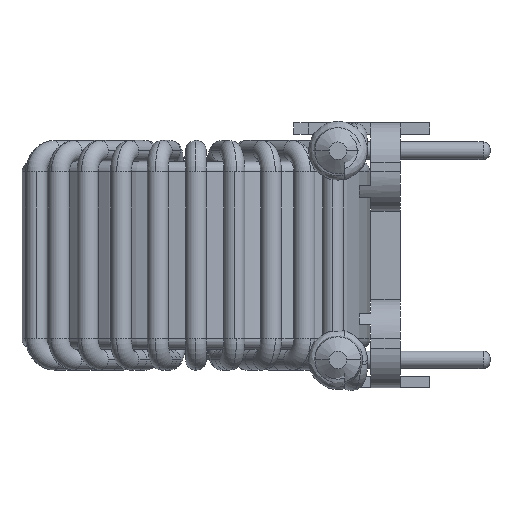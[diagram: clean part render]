
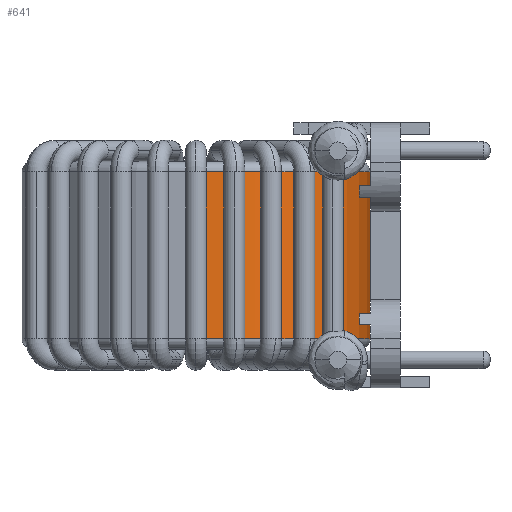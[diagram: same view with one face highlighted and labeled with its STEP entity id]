
A CAD part, left-side view. The second image highlights one B-rep face of the part: STEP entity #641.
In plain terms, the highlighted cylindrical face has radius 15 mm (diameter 30 mm), a partial arc.
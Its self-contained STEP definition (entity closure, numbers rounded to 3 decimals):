
#641 = ADVANCED_FACE ( 'NONE', ( #22793 ), #23944, .T. ) ;
#843 = ORIENTED_EDGE ( 'NONE', *, *, #4518, .T. ) ;
#1898 = VECTOR ( 'NONE', #31323, 1000. ) ;
#4518 = EDGE_CURVE ( 'NONE', #15595, #12744, #20303, .T. ) ;
#4925 = CARTESIAN_POINT ( 'NONE',  ( 0., 0., 8.1 ) ) ;
#5502 = EDGE_CURVE ( 'NONE', #19858, #27447, #8270, .T. ) ;
#6999 = EDGE_CURVE ( 'NONE', #27447, #15595, #19256, .T. ) ;
#8113 = ORIENTED_EDGE ( 'NONE', *, *, #14672, .F. ) ;
#8270 = CIRCLE ( 'NONE', #14781, 15. ) ;
#8610 = CARTESIAN_POINT ( 'NONE',  ( -15., 0., 8.1 ) ) ;
#10771 = CARTESIAN_POINT ( 'NONE',  ( -15., 0., -7.2 ) ) ;
#11934 = LINE ( 'NONE', #13982, #1898 ) ;
#11949 = DIRECTION ( 'NONE',  ( 1., 0., 0. ) ) ;
#12744 = VERTEX_POINT ( 'NONE', #14708 ) ;
#13718 = CARTESIAN_POINT ( 'NONE',  ( 15., 0., 7.2 ) ) ;
#13982 = CARTESIAN_POINT ( 'NONE',  ( 15., 0., 8.1 ) ) ;
#14672 = EDGE_CURVE ( 'NONE', #19858, #12744, #11934, .T. ) ;
#14708 = CARTESIAN_POINT ( 'NONE',  ( 15., 0., -7.2 ) ) ;
#14781 = AXIS2_PLACEMENT_3D ( 'NONE', #29162, #22023, #11949 ) ;
#14981 = ORIENTED_EDGE ( 'NONE', *, *, #6999, .T. ) ;
#15077 = DIRECTION ( 'NONE',  ( 0., 0., -1. ) ) ;
#15206 = DIRECTION ( 'NONE',  ( 1., 0., 0. ) ) ;
#15595 = VERTEX_POINT ( 'NONE', #10771 ) ;
#19256 = LINE ( 'NONE', #8610, #28950 ) ;
#19636 = EDGE_LOOP ( 'NONE', ( #8113, #26339, #14981, #843 ) ) ;
#19858 = VERTEX_POINT ( 'NONE', #13718 ) ;
#20303 = CIRCLE ( 'NONE', #29296, 15. ) ;
#22023 = DIRECTION ( 'NONE',  ( 0., 0., -1. ) ) ;
#22480 = DIRECTION ( 'NONE',  ( 0., 0., 1. ) ) ;
#22645 = DIRECTION ( 'NONE',  ( -1., 0., 0. ) ) ;
#22793 = FACE_OUTER_BOUND ( 'NONE', #19636, .T. ) ;
#23423 = DIRECTION ( 'NONE',  ( 0., 0., -1. ) ) ;
#23944 = CYLINDRICAL_SURFACE ( 'NONE', #31674, 15. ) ;
#24155 = CARTESIAN_POINT ( 'NONE',  ( -15., 0., 7.2 ) ) ;
#26339 = ORIENTED_EDGE ( 'NONE', *, *, #5502, .T. ) ;
#27447 = VERTEX_POINT ( 'NONE', #24155 ) ;
#28950 = VECTOR ( 'NONE', #23423, 1000. ) ;
#29162 = CARTESIAN_POINT ( 'NONE',  ( 0., 0., 7.2 ) ) ;
#29296 = AXIS2_PLACEMENT_3D ( 'NONE', #30046, #22480, #15206 ) ;
#30046 = CARTESIAN_POINT ( 'NONE',  ( 0., 0., -7.2 ) ) ;
#31323 = DIRECTION ( 'NONE',  ( 0., 0., -1. ) ) ;
#31674 = AXIS2_PLACEMENT_3D ( 'NONE', #4925, #15077, #22645 ) ;
